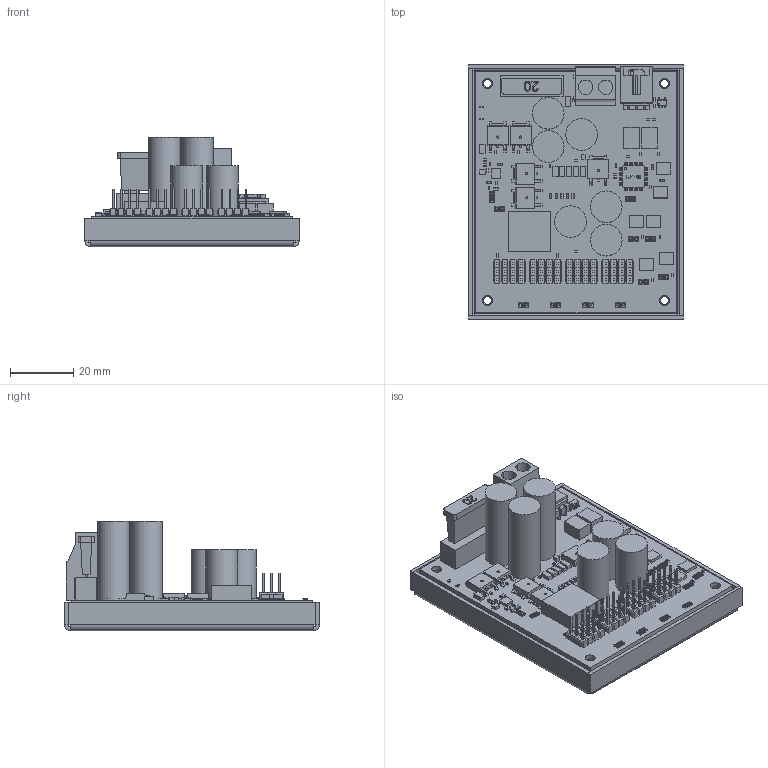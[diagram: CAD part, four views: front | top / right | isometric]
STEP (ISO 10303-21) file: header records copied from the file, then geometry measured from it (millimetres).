
FILE_DESCRIPTION(/* description */ ('Alibre Inc.'),/* implementation_level */ '2;1');
FILE_NAME(/* name */ 'export0',/* time_stamp */ '2018-01-08T10:36:08-07:00',/* author */ (''),/* organization */ (''),/* preprocessor_version */ 'ST-DEVELOPER v14',/* originating_system */ 'Alibre',/* authorisation */ '');
FILE_SCHEMA (('CONFIG_CONTROL_DESIGN'));
Length unit declared in the file: centimetre
Products named in the file (190): ID_1; ID_2; ID_3; ID_4; ID_5; ID_6; ID_7; ID_8; ID_9; ID_10; ID_11; ID_12; ID_13; ID_14; ID_15; ID_16; ID_17; ID_18; ID_19; ID_20; ID_21; ID_22; ID_23; ID_24; ID_25; ID_26; ID_27; ID_28; ID_29; ID_30; ID_31; ID_32; ID_33; ID_34; ID_35; ID_36; ID_37; ID_38; ID_39; ID_40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
Bounding box: 67.86 x 80.56 x 34.57 mm (x, y, z)
Volume: 34022.5 mm3; surface area: 41677.5 mm2
Topology: 296 solids, 296 shells, 7757 faces, 19935 edges, 13105 vertices
Faces by surface type: plane 5762, bspline 1539, cylinder 440, cone 16
Full cylindrical faces by diameter (mm): 0.381 x1, 0.965 x3, 1 x12, 1.067 x60, 1.5 x2, 1.575 x4, 1.778 x4, 3.175 x4, 4.22 x4, 10 x6
Entity records: 62488 total; most frequent: CARTESIAN_POINT 9414, ORIENTED_EDGE 6024, DIRECTION 5664, EDGE_CURVE 3012, VECTOR 2362, LINE 2362, PERSON_AND_ORGANIZATION 2270, AXIS2_PLACEMENT_3D 2077
